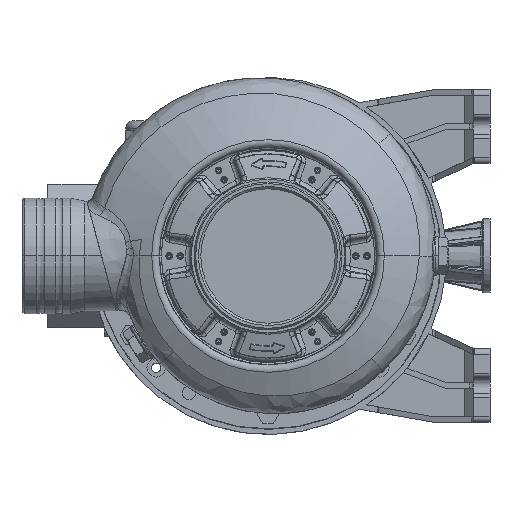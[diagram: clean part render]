
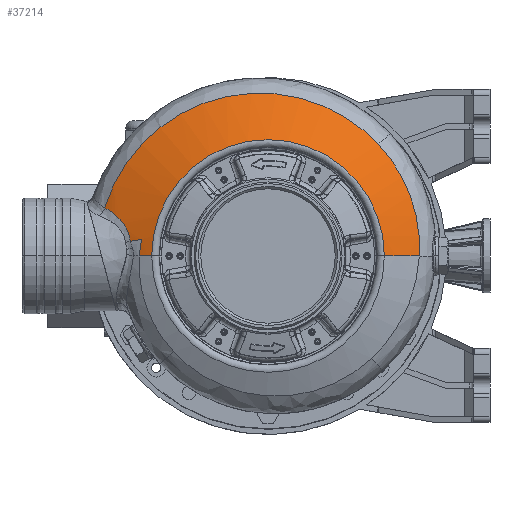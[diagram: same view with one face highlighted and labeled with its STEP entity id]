
A CAD part, left-side view. The second image highlights one B-rep face of the part: STEP entity #37214.
In plain terms, the highlighted spherical face has radius 172 mm.
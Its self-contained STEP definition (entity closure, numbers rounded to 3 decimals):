
#26581=CARTESIAN_POINT('',(0.,0.,36.093));
#26582=DIRECTION('',(0.,0.,-1.));
#26583=DIRECTION('',(0.,1.,0.));
#26584=AXIS2_PLACEMENT_3D('',#26581,#26582,#26583);
#26589=CARTESIAN_POINT('',(0.,0.,-124.));
#26590=DIRECTION('',(1.,0.,0.));
#26591=DIRECTION('',(0.,0.405,0.914));
#26592=AXIS2_PLACEMENT_3D('',#26589,#26590,#26591);
#26597=CARTESIAN_POINT('',(9.009,68.431,33.544));
#26598=CARTESIAN_POINT('',(8.266,68.578,33.522));
#26599=CARTESIAN_POINT('',(6.775,68.847,33.48));
#26600=CARTESIAN_POINT('',(4.526,69.175,33.417));
#26601=CARTESIAN_POINT('',(2.643,69.386,33.365));
#26602=CARTESIAN_POINT('',(1.134,69.517,33.323));
#26603=CARTESIAN_POINT('',(0.378,69.57,
33.302));
#26604=CARTESIAN_POINT('',(0.,69.594,
33.292));
#26609=CARTESIAN_POINT('',(9.009,68.431,33.544));
#26610=CARTESIAN_POINT('',(8.707,70.44,32.688));
#26611=CARTESIAN_POINT('',(8.356,72.427,31.799));
#26612=CARTESIAN_POINT('',(7.957,74.388,30.878));
#26617=CARTESIAN_POINT('',(7.957,74.388,30.878));
#26618=CARTESIAN_POINT('',(10.071,74.682,30.628));
#26619=CARTESIAN_POINT('',(14.185,75.867,29.757));
#26620=CARTESIAN_POINT('',(18.437,78.68,27.861));
#26621=CARTESIAN_POINT('',(21.255,81.382,26.042));
#26622=CARTESIAN_POINT('',(23.108,83.57,24.558));
#26623=CARTESIAN_POINT('',(24.422,85.507,23.235));
#26624=CARTESIAN_POINT('',(25.38,87.089,22.138));
#26625=CARTESIAN_POINT('',(25.789,87.907,21.573));
#26626=CARTESIAN_POINT('',(26.018,88.303,21.291));
#26631=CARTESIAN_POINT('',(26.018,88.303,21.291));
#26632=CARTESIAN_POINT('',(29.663,87.18,21.321));
#26633=CARTESIAN_POINT('',(36.812,84.458,21.395));
#26634=CARTESIAN_POINT('',(46.935,79.,21.547));
#26635=CARTESIAN_POINT('',(56.228,72.298,21.737));
#26636=CARTESIAN_POINT('',(64.596,64.424,21.962));
#26637=CARTESIAN_POINT('',(71.869,55.528,22.218));
#26638=CARTESIAN_POINT('',(77.927,45.75,22.5));
#26639=CARTESIAN_POINT('',(82.651,35.291,22.803));
#26640=CARTESIAN_POINT('',(85.978,24.305,23.123));
#26641=CARTESIAN_POINT('',(87.85,12.961,23.453));
#26642=CARTESIAN_POINT('',(88.229,1.46,23.789));
#26643=CARTESIAN_POINT('',(87.106,-9.991,
24.124));
#26644=CARTESIAN_POINT('',(84.51,-21.173,
24.451));
#26645=CARTESIAN_POINT('',(80.472,-31.944,
24.768));
#26646=CARTESIAN_POINT('',(75.076,-42.085,
25.066));
#26647=CARTESIAN_POINT('',(68.376,-51.473,
25.343));
#26648=CARTESIAN_POINT('',(63.161,-57.065,
25.509));
#26649=CARTESIAN_POINT('',(60.385,-59.678,
25.586));
#26654=CARTESIAN_POINT('',(60.385,-59.678,
25.586));
#26655=CARTESIAN_POINT('',(57.738,-62.171,
25.661));
#26656=CARTESIAN_POINT('',(52.092,-66.819,
25.819));
#26657=CARTESIAN_POINT('',(42.734,-72.619,
26.083));
#26658=CARTESIAN_POINT('',(32.595,-77.146,
26.37));
#26659=CARTESIAN_POINT('',(21.97,-80.25,
26.672));
#26660=CARTESIAN_POINT('',(11.026,-81.898,
26.983));
#26661=CARTESIAN_POINT('',(3.664,-82.005,
27.193));
#26662=CARTESIAN_POINT('',(0.,-81.811,
27.297));
#26667=CARTESIAN_POINT('',(0.,0.,-124.));
#26668=DIRECTION('',(-1.,0.,0.));
#26669=DIRECTION('',(0.,-0.476,0.88));
#26670=AXIS2_PLACEMENT_3D('',#26667,#26668,#26669);
#26699=CARTESIAN_POINT('',(0.,-81.811,
27.297));
#26822=CARTESIAN_POINT('',(7.957,74.388,30.878));
#26830=CARTESIAN_POINT('',(26.018,88.303,21.291));
#30604=VERTEX_POINT('',#26699);
#30605=VERTEX_POINT('',#26654);
#30608=VERTEX_POINT('',#26597);
#30609=VERTEX_POINT('',#26604);
#30649=VERTEX_POINT('',#26822);
#30651=VERTEX_POINT('',#26830);
#30729=CARTESIAN_POINT('',(0.,62.883,36.093));
#30730=CARTESIAN_POINT('',(0.,-62.883,36.093));
#30731=VERTEX_POINT('',#30729);
#30732=VERTEX_POINT('',#30730);
#37192=CARTESIAN_POINT('',(0.,0.,-124.));
#37193=DIRECTION('',(0.,0.,1.));
#37194=DIRECTION('',(0.,1.,0.));
#37195=AXIS2_PLACEMENT_3D('',#37192,#37193,#37194);
#37196=SPHERICAL_SURFACE('',#37195,172.);
#37198=ORIENTED_EDGE('',*,*,#37197,.F.);
#37200=ORIENTED_EDGE('',*,*,#37199,.F.);
#37202=ORIENTED_EDGE('',*,*,#37201,.F.);
#37204=ORIENTED_EDGE('',*,*,#37203,.T.);
#37206=ORIENTED_EDGE('',*,*,#37205,.T.);
#37208=ORIENTED_EDGE('',*,*,#37207,.T.);
#37209=ORIENTED_EDGE('',*,*,#37182,.T.);
#37211=ORIENTED_EDGE('',*,*,#37210,.T.);
#37212=EDGE_LOOP('',(#37198,#37200,#37202,#37204,#37206,#37208,#37209,#37211));
#37213=FACE_OUTER_BOUND('',#37212,.F.);
#26585=CIRCLE('',#26584,62.883);
#26593=CIRCLE('',#26592,172.);
#26605=B_SPLINE_CURVE_WITH_KNOTS('',3,(#26597,#26598,#26599,#26600,#26601,
#26602,#26603,#26604),.UNSPECIFIED.,.F.,.F.,(4,1,1,1,1,4),(0.,0.25,0.5,
0.75,0.875,1.),.UNSPECIFIED.);
#26613=B_SPLINE_CURVE_WITH_KNOTS('',3,(#26609,#26610,#26611,#26612),
.UNSPECIFIED.,.F.,.F.,(4,4),(0.,1.),.UNSPECIFIED.);
#26627=B_SPLINE_CURVE_WITH_KNOTS('',3,(#26617,#26618,#26619,#26620,#26621,
#26622,#26623,#26624,#26625,#26626),.UNSPECIFIED.,.F.,.F.,(4,1,1,1,1,1,1,4),(
0.,0.25,0.5,0.625,0.75,0.875,0.938,1.),.UNSPECIFIED.);
#26650=B_SPLINE_CURVE_WITH_KNOTS('',3,(#26631,#26632,#26633,#26634,#26635,
#26636,#26637,#26638,#26639,#26640,#26641,#26642,#26643,#26644,#26645,#26646,
#26647,#26648,#26649),.UNSPECIFIED.,.F.,.F.,(4,1,1,1,1,1,1,1,1,1,1,1,1,1,1,1,4),
(0.,0.063,0.125,0.188,0.25,0.313,0.375,0.438,0.5,0.563,
0.625,0.688,0.75,0.813,0.875,0.938,1.),.UNSPECIFIED.);
#26663=B_SPLINE_CURVE_WITH_KNOTS('',3,(#26654,#26655,#26656,#26657,#26658,
#26659,#26660,#26661,#26662),.UNSPECIFIED.,.F.,.F.,(4,1,1,1,1,1,4),(0.,
0.167,0.333,0.5,0.667,0.833,
1.),.UNSPECIFIED.);
#26671=CIRCLE('',#26670,172.);
#37182=EDGE_CURVE('',#30605,#30604,#26663,.T.);
#37197=EDGE_CURVE('',#30731,#30732,#26585,.T.);
#37199=EDGE_CURVE('',#30609,#30731,#26593,.T.);
#37201=EDGE_CURVE('',#30608,#30609,#26605,.T.);
#37203=EDGE_CURVE('',#30608,#30649,#26613,.T.);
#37205=EDGE_CURVE('',#30649,#30651,#26627,.T.);
#37207=EDGE_CURVE('',#30651,#30605,#26650,.T.);
#37210=EDGE_CURVE('',#30604,#30732,#26671,.T.);
#37214=ADVANCED_FACE('',(#37213),#37196,.T.);
